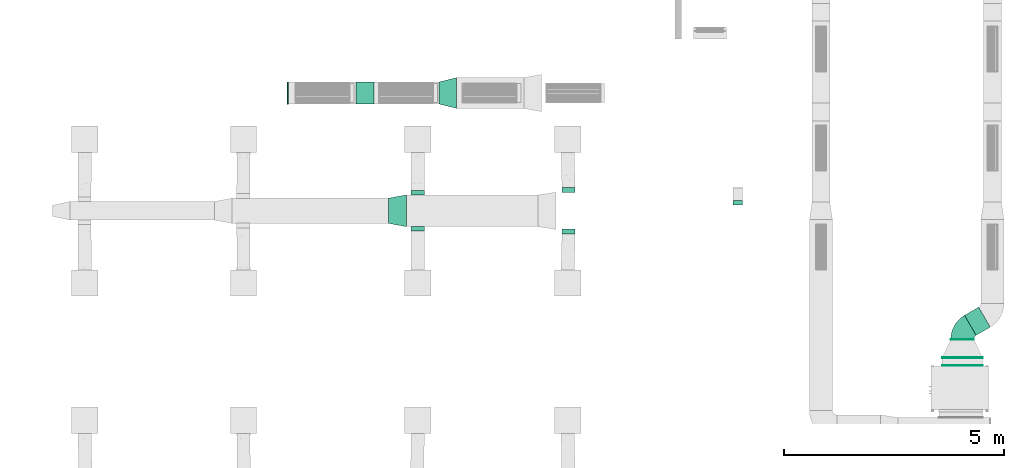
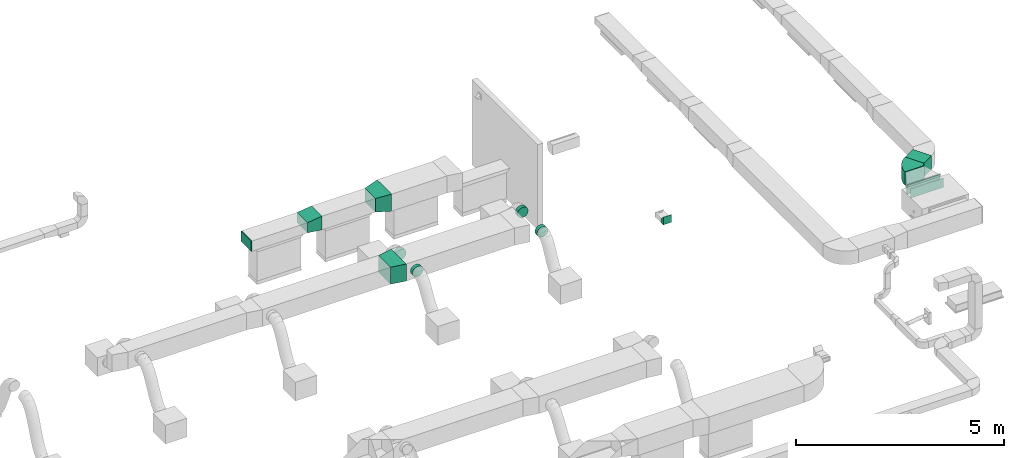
# One storey, part 29 of 60: 10 flow fittings, 4 flow segments.
"""IFC2X3 building model written with IfcOpenShell, lengths in millimetres."""

from ifc_helpers import new_model, entity, si_unit, converted_unit, derived_unit, direction, frame, frame_2d, origin, origin_2d_with_axis, place, context, subcontext, project, spatial, polyline, circle_curve, parameter, trimmed, segment, composite_curve, rectangle, outline, extrude, faceted_brep, source, transform, mapped, material, type_object, type_shapes, element, save


model = new_model("IFC2X3")

# Units and contexts
model_context = context("Model", 3, precision=0.01, world=origin(), true_north=direction((6.123233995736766e-17, 1.0)))
body_context = subcontext(model_context, "Body", "Model", "MODEL_VIEW")
ifc_project = project(units=[si_unit("LENGTHUNIT", "METRE", prefix="MILLI"), converted_unit("PLANEANGLEUNIT", "DEGREE", entity("IfcPlaneAngleMeasure", 0.017453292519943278), si_unit("PLANEANGLEUNIT", "RADIAN"), dimensions=[0, 0, 0, 0, 0, 0, 0]), si_unit("AREAUNIT", "SQUARE_METRE"), derived_unit("THERMALTRANSMITTANCEUNIT", [(si_unit("MASSUNIT", "GRAM", prefix="KILO"), 1), (si_unit("THERMODYNAMICTEMPERATUREUNIT", "KELVIN"), -1), (si_unit("TIMEUNIT", "SECOND"), -3)])], contexts=[model_context])

# Site, building, storey
site_placement = place(None, origin())
site = spatial("IfcSite", under=ifc_project, at=site_placement, Name="Default", CompositionType="ELEMENT")
building_placement = place(site_placement, origin())
building = spatial("IfcBuilding", under=site, at=building_placement, Name="Praça Pedro II, 1301 - Centro (Sul), Teresina - PI, 64001-100", CompositionType="ELEMENT")
storey_placement = place(building_placement, frame((0.0, 0.0, 6040.0)))
storey = spatial("IfcBuildingStorey", under=building, at=storey_placement, Name="2PAV", CompositionType="ELEMENT", Elevation=6040.0)

# Flow fittings
ifc_material = material(Name="<Unnamed>")
duct_fitting_type_1 = type_object("IfcDuctFittingType", Name="M_Encaixe de duto redondo:Padrão", PredefinedType="NOTDEFINED", material=ifc_material)
shared_shape_1 = source(origin(), body_context, "Body", "Brep", [
    faceted_brep([(101.6000000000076, 38.82285676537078, -144.88887394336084), (101.6000000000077, 75.0, -129.90381056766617), (101.60000000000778, 106.0660171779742, -106.06601717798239), (101.60000000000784, 129.90381056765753, -75.0), (101.60000000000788, 144.88887394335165, -38.8228567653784), (101.6000000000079, 150.0, 0.0), (101.60000000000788, 144.88887394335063, 38.822856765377), (101.60000000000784, 129.90381056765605, 75.0), (101.60000000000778, 106.0660171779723, 106.06601717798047), (101.6000000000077, 75.0, 129.90381056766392), (101.6000000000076, 38.82285676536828, 144.88887394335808), (101.6000000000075, 0.0, 150.0), (101.6000000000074, -38.82285676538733, 144.88887394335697), (101.60000000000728, -75.0, 129.90381056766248), (101.6000000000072, -106.06601717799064, 106.0660171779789), (101.60000000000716, -129.90381056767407, 75.0), (101.6000000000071, -144.88887394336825, 38.82285676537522), (101.60000000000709, -150.0, 0.0), (101.6000000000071, -144.8888739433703, -38.82285676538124), (101.60000000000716, -129.90381056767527, -75.0), (101.6000000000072, -106.06601717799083, -106.06601717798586), (101.60000000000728, -75.0, -129.90381056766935), (101.6000000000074, -38.82285676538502, -144.88887394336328), (101.6000000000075, 0.0, -150.0), (0.0, 38.82285676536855, 144.88887394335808), (-6.095999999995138, 38.82285676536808, 144.88887394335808), (-6.095999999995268, 0.0, 150.0), (0.0, 0.0, 150.0), (0.0, 75.0, 129.90381056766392), (-6.095999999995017, 75.0, 129.90381056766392), (0.0, 106.06601717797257, 106.06601717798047), (-6.0959999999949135, 106.06601717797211, 106.06601717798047), (0.0, 144.88887394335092, 38.82285676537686), (-6.095999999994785, 144.88887394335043, 38.822856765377), (-6.095999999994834, 129.90381056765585, 75.0), (0.0, 129.9038105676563, 75.0), (0.0, 150.0, 0.0), (-6.095999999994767, 150.0, 0.0), (0.0, 144.88887394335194, -38.8228567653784), (-6.095999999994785, 144.88887394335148, -38.8228567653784), (0.0, 129.90381056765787, -75.0), (-6.095999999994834, 129.90381056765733, -75.0), (0.0, 106.06601717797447, -106.06601717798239), (-6.0959999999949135, 106.066017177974, -106.06601717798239), (0.0, 38.82285676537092, -144.88887394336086), (-6.095999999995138, 38.822856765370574, -144.88887394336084), (-6.095999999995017, 75.0, -129.90381056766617), (0.0, 75.0, -129.90381056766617), (0.0, 0.0, -150.0), (-6.095999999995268, 0.0, -150.0), (0.0, -75.0, -129.90381056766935), (-6.095999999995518, -75.0, -129.90381056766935), (-6.095999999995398, -38.82285676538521, -144.88887394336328), (0.0, -38.82285676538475, -144.88887394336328), (0.0, -106.06601717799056, -106.06601717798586), (-6.095999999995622, -106.06601717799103, -106.06601717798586), (0.0, -144.88887394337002, -38.82285676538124), (-6.095999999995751, -144.8888739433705, -38.82285676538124), (-6.095999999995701, -129.9038105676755, -75.0), (0.0, -129.903810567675, -75.0), (0.0, -150.0, 0.0), (-6.09599999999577, -150.0, 0.0), (0.0, -144.88887394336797, 38.82285676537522), (-6.095999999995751, -144.88887394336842, 38.82285676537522), (0.0, -129.9038105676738, 75.0), (-6.095999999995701, -129.90381056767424, 75.0), (0.0, -106.06601717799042, 106.06601717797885), (-6.095999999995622, -106.06601717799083, 106.0660171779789), (0.0, -38.82285676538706, 144.88887394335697), (-6.095999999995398, -38.82285676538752, 144.88887394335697), (-6.095999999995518, -75.0, 129.90381056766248), (0.0, -75.0, 129.90381056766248)], [[[0, 1, 2, 3, 4, 5, 6, 7, 8, 9, 10, 11, 12, 13, 14, 15, 16, 17, 18, 19, 20, 21, 22, 23]], [[24, 25, 26, 27, 11, 10]], [[28, 29, 25, 24, 10, 9]], [[9, 8, 30, 31, 29, 28]], [[32, 33, 34, 35, 7, 6]], [[36, 37, 33, 32, 6, 5]], [[8, 7, 35, 34, 31, 30]], [[38, 39, 37, 36, 5, 4]], [[40, 41, 39, 38, 4, 3]], [[3, 2, 42, 43, 41, 40]], [[44, 45, 46, 47, 1, 0]], [[48, 49, 45, 44, 0, 23]], [[2, 1, 47, 46, 43, 42]], [[22, 21, 50, 51, 52, 53]], [[23, 22, 53, 52, 49, 48]], [[21, 20, 54, 55, 51, 50]], [[56, 57, 58, 59, 19, 18]], [[60, 61, 57, 56, 18, 17]], [[20, 19, 59, 58, 55, 54]], [[62, 63, 61, 60, 17, 16]], [[64, 65, 63, 62, 16, 15]], [[15, 14, 66, 67, 65, 64]], [[68, 69, 70, 71, 13, 12]], [[27, 26, 69, 68, 12, 11]], [[14, 13, 71, 70, 67, 66]], [[49, 52, 51, 55, 58, 57, 61, 63, 65, 67, 70, 69, 26, 25, 29, 31, 34, 33, 37, 39, 41, 43, 46, 45]]]),
])
type_shapes(duct_fitting_type_1, [shared_shape_1])
for number, where, z_axis, x_axis in (
    (1, (29937.068504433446, -57823.42127782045, 3480.0), (0.0, 0.0, 1.0), (0.0, 1.0, 0.0)),
    (2, (29937.068504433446, -58673.421277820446, 3480.0), (0.0, 0.0, -1.0), (0.0, -1.0, 0.0)),
    (3, (26512.077962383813, -58610.921277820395, 3480.0), (0.0, 0.0, -1.0), (0.0, -1.0, 0.0)),
    (4, (26512.077962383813, -57885.92127782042, 3480.0), (0.0, 0.0, 1.0), (0.0, 1.0, 0.0)),
):
    element("IfcFlowFitting", number, at=place(storey_placement, frame(where, z_axis=z_axis, x_axis=x_axis)), inside=storey, type_object=duct_fitting_type_1, material=ifc_material, Name="M_Encaixe de duto redondo:Padrão", ObjectType="M_Encaixe de duto redondo:Padrão", context=body_context, shape_type="MappedRepresentation", body=[
        mapped(shared_shape_1, transform((0.0, 0.0, 0.0), scale=1.0)),
    ])

# Flow segments
duct_segment_type = type_object("IfcDuctSegmentType", Name="Duto retangular:Raios cotovelos / torneiras", PredefinedType="NOTDEFINED")
flow_segment_1_placement = place(storey_placement, origin())
element("IfcFlowSegment", 5, at=flow_segment_1_placement, inside=storey, type_object=duct_segment_type, Name="Duto retangular:Raios cotovelos / torneiras", ObjectType="Duto retangular:Raios cotovelos / torneiras", context=body_context, shape_type="SweptSolid", body=[
    extrude(rectangle(XDim=371.08557619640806, YDim=525.0000000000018, at=frame_2d((-2.1742607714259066e-12, -3.751665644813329e-12), x_axis=(1.0, 0.0))), frame((39235.51025433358, -60758.80982275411, 3250.0), z_axis=(0.0, 0.0, 1.0), x_axis=(-0.8660254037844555, -0.49999999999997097, 0.0)), (0.0, 0.0, 1.0), 400.0),
])
flow_segment_2_placement = place(storey_placement, origin())
element("IfcFlowSegment", 6, at=flow_segment_2_placement, inside=storey, type_object=duct_segment_type, Name="Duto retangular:Raios cotovelos / torneiras", ObjectType="Duto retangular:Raios cotovelos / torneiras", context=body_context, shape_type="SweptSolid", body=[
    extrude(rectangle(XDim=17.801872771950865, YDim=525.0000000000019, at=origin_2d_with_axis()), frame((38893.57548635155, -61174.41636206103, 3250.0), z_axis=(0.0, 0.0, 1.0), x_axis=(0.0, -1.0, 0.0)), (0.0, 0.0, 1.0), 400.0),
])
flow_segment_3_placement = place(storey_placement, origin())
element("IfcFlowSegment", 7, at=flow_segment_3_placement, inside=storey, type_object=duct_segment_type, Name="Duto retangular:Raios cotovelos / torneiras", ObjectType="Duto retangular:Raios cotovelos / torneiras", context=body_context, shape_type="SweptSolid", body=[
    extrude(rectangle(XDim=15.000000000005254, YDim=916.9999999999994, at=frame_2d((4.331202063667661e-12, -4.320099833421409e-12), x_axis=(1.0, 0.0))), frame((38893.57548635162, -61766.39369241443, 3316.0), z_axis=(0.0, 0.0, 1.0), x_axis=(0.0, -1.0, 0.0)), (0.0, 0.0, 1.0), 267.9999999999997),
])
flow_segment_4_placement = place(storey_placement, origin())
element("IfcFlowSegment", 8, at=flow_segment_4_placement, inside=storey, type_object=duct_segment_type, Name="Duto retangular:Raios cotovelos / torneiras", ObjectType="Duto retangular:Raios cotovelos / torneiras", context=body_context, shape_type="SweptSolid", body=[
    extrude(rectangle(XDim=15.000000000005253, YDim=916.9999999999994, at=frame_2d((-4.331202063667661e-12, 0.0), x_axis=(1.0, 0.0))), frame((38893.57548635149, -61590.81729844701, 3316.0), z_axis=(0.0, 0.0, 1.0), x_axis=(0.0, -1.0, 0.0)), (0.0, 0.0, 1.0), 267.9999999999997),
])

# Flow fittings
duct_fitting_type_2 = type_object("IfcDuctFittingType", Name="M_Rectangular Transition - L:400 mm (L)", PredefinedType="NOTDEFINED", material=ifc_material)
shared_shape_2 = source(origin(), body_context, "Body", "SweptSolid", [
    extrude(outline(polyline([(-179.85036515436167, -173.64862842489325), (223.26252226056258, -173.64862842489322), (173.64862842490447, 223.26252226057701), (-217.06078553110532, 124.03473458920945), (-179.85036515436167, -173.64862842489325)])), frame((200.0, -250.0, 0.0), z_axis=(0.0, 1.0, 0.0), x_axis=(0.9922778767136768, 0.0, 0.12403473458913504)), (0.0, 0.0, 1.0), 500.00000000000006),
])
type_shapes(duct_fitting_type_2, [shared_shape_2])
flow_fitting_1_placement = place(storey_placement, frame((25114.081514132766, -55571.293902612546, 3500.0)))
element("IfcFlowFitting", 9, at=flow_fitting_1_placement, inside=storey, type_object=duct_fitting_type_2, material=ifc_material, Name="M_Rectangular Transition - L:400 mm (L)", ObjectType="M_Rectangular Transition - L:400 mm (L)", context=body_context, shape_type="MappedRepresentation", body=[
    mapped(shared_shape_2, transform((0.0, 0.0, 0.0), scale=1.0)),
])
duct_fitting_type_3 = type_object("IfcDuctFittingType", Name="M_Rectangular Transition - L:400 mm (L)", PredefinedType="NOTDEFINED", material=ifc_material)
shared_shape_3 = source(origin(), body_context, "Body", "Brep", [
    faceted_brep([(400.0, -350.0, 250.0), (400.0, -350.0, -250.0), (400.0, 350.0, -250.0), (400.0, 350.0, 250.0), (0.0, -250.0, 200.0), (0.0, 250.0, 200.0), (0.0, 250.0, -200.0), (0.0, -250.0, -200.0)], [[[0, 1, 2, 3]], [[4, 5, 6, 7]], [[4, 7, 1, 0]], [[7, 6, 2, 1]], [[6, 5, 3, 2]], [[5, 4, 0, 3]]]),
])
type_shapes(duct_fitting_type_3, [shared_shape_3])
flow_fitting_2_placement = place(storey_placement, frame((26995.612034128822, -55571.2939026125, 3500.0)))
element("IfcFlowFitting", 10, at=flow_fitting_2_placement, inside=storey, type_object=duct_fitting_type_3, material=ifc_material, Name="M_Rectangular Transition - L:400 mm (L)", ObjectType="M_Rectangular Transition - L:400 mm (L)", context=body_context, shape_type="MappedRepresentation", body=[
    mapped(shared_shape_3, transform((0.0, 0.0, 0.0), scale=1.0)),
])
duct_fitting_type_4 = type_object("IfcDuctFittingType", Name="M_Tampa retangular:Padrão", PredefinedType="NOTDEFINED", material=ifc_material)
shared_shape_4 = source(origin(), body_context, "Body", "SweptSolid", [
    extrude(rectangle(XDim=24.999999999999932, YDim=500.00000000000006, at=frame_2d((8.881784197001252e-16, 0.0), x_axis=(1.0, 0.0))), frame((12.500000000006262, 0.0, -150.0)), (0.0, 0.0, 1.0), 300.0),
])
type_shapes(duct_fitting_type_4, [shared_shape_4])
flow_fitting_3_placement = place(storey_placement, frame((23573.96138909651, -55571.293902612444, 3500.0), z_axis=(0.0, 0.0, 1.0), x_axis=(-1.0, 0.0, 0.0)))
element("IfcFlowFitting", 11, at=flow_fitting_3_placement, inside=storey, type_object=duct_fitting_type_4, material=ifc_material, Name="M_Tampa retangular:Padrão", ObjectType="M_Tampa retangular:Padrão", context=body_context, shape_type="MappedRepresentation", body=[
    mapped(shared_shape_4, transform((0.0, 0.0, 0.0), scale=1.0)),
])
duct_fitting_type_5 = type_object("IfcDuctFittingType", Name="M_Rectangular Transition - L:400 mm (L)", PredefinedType="NOTDEFINED", material=ifc_material)
shared_shape_5 = source(origin(), body_context, "Body", "SweptSolid", [
    extrude(outline(polyline([(-263.3790313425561, -319.4334607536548), (143.59148355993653, -319.43346075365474), (249.5573912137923, 245.71804673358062), (-129.7698434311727, 393.1488747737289), (-263.3790313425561, -319.4334607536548)])), frame((200.0, 0.0, -250.0), z_axis=(0.0, 0.0, 1.0), x_axis=(0.9828721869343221, 0.18428853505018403, 0.0)), (0.0, 0.0, 1.0), 500.00000000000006),
])
type_shapes(duct_fitting_type_5, [shared_shape_5])
flow_fitting_4_placement = place(storey_placement, frame((26251.32107154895, -58248.42127782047, 3480.0), z_axis=(0.0, 0.0, 1.0), x_axis=(-1.0, 0.0, 0.0)))
element("IfcFlowFitting", 12, at=flow_fitting_4_placement, inside=storey, type_object=duct_fitting_type_5, material=ifc_material, Name="M_Rectangular Transition - L:400 mm (L)", ObjectType="M_Rectangular Transition - L:400 mm (L)", context=body_context, shape_type="MappedRepresentation", body=[
    mapped(shared_shape_5, transform((0.0, 0.0, 0.0), scale=1.0)),
])
duct_fitting_type_6 = type_object("IfcDuctFittingType", Name="BTS vanes:1 Splitter Vanes", PredefinedType="NOTDEFINED", material=ifc_material)
shared_shape_6 = source(origin(), body_context, "Body", "SweptSolid", [
    extrude(outline(composite_curve([segment(polyline([(-353.12499999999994, -156.9671044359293), (171.87500000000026, -156.96710443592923)]), True, "CONTINUOUS"), segment(trimmed(circle_curve(frame_2d((271.8750000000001, -156.96710443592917), x_axis=(-0.5, 0.8660254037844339)), 99.99999999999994), [parameter(0.0)], [parameter(59.99999999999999)], True, "PARAMETER"), False, "CONTINUOUS"), segment(polyline([(221.87500000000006, -70.36456405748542), (-40.625000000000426, 384.29877292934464)]), True, "CONTINUOUS"), segment(trimmed(circle_curve(frame_2d((271.8750000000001, -156.96710443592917), x_axis=(-0.5, 0.8660254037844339)), 625.0), [parameter(0.0)], [parameter(59.99999999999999)], True, "PARAMETER"), True, "CONTINUOUS")], self_intersect=False)), frame((-52.32236814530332, 90.62499999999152, -200.0), z_axis=(0.0, 0.0, 1.0), x_axis=(-0.8660254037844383, 0.5000000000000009, 0.0)), (0.0, 0.0, 1.0), 400.0),
    extrude(outline(composite_curve([segment(polyline([(-48.026315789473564, -51.27781996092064), (-11.184210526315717, -51.27781996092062)]), True, "CONTINUOUS"), segment(trimmed(circle_curve(frame_2d((88.8157894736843, -51.27781996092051), x_axis=(-0.5, 0.8660254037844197)), 100.0), [parameter(0.0)], [parameter(59.99999999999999)], True, "PARAMETER"), False, "CONTINUOUS"), segment(polyline([(38.815789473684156, 35.324720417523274), (20.394736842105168, 67.23091950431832)]), True, "CONTINUOUS"), segment(trimmed(circle_curve(frame_2d((88.8157894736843, -51.27781996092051), x_axis=(-0.5, 0.8660254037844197)), 136.84210526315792), [parameter(0.0)], [parameter(59.99999999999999)], True, "PARAMETER"), True, "CONTINUOUS")], self_intersect=False)), frame((-158.0116526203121, 273.6842105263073, -200.0), z_axis=(0.0, 0.0, 1.0), x_axis=(-0.8660254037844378, 0.5000000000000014, 0.0)), (0.0, 0.0, 1.0), 400.0),
])
type_shapes(duct_fitting_type_6, [shared_shape_6])
flow_fitting_5_placement = place(storey_placement, frame((38893.57548635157, -60956.225953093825, 3450.0), z_axis=(0.0, 0.0, 1.0), x_axis=(-0.8660254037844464, -0.49999999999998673, 0.0)))
element("IfcFlowFitting", 13, at=flow_fitting_5_placement, inside=storey, type_object=duct_fitting_type_6, material=ifc_material, Name="BTS vanes:1 Splitter Vanes", ObjectType="BTS vanes:1 Splitter Vanes", context=body_context, shape_type="MappedRepresentation", body=[
    mapped(shared_shape_6, transform((0.0, 0.0, 0.0), scale=1.0)),
])
duct_fitting_type_7 = type_object("IfcDuctFittingType", Name="M_Rectangular Tap - Beveled:Standard", PredefinedType="NOTDEFINED", material=ifc_material)
shared_shape_7 = source(origin(), body_context, "Body", "SweptSolid", [
    extrude(outline(polyline([(-115.0, -62.438399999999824), (10.0, -62.438399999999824), (110.0, 37.56159999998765), (110.0, 43.6576000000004), (-115.0, 43.65759999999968), (-115.0, -62.438399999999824)])), frame((37.56160000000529, 52.50000000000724, -112.49999999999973), z_axis=(0.0, 0.0, 1.0), x_axis=(0.0, 1.0, 0.0)), (0.0, 0.0, 1.0), 224.99999999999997),
])
type_shapes(duct_fitting_type_7, [shared_shape_7])
flow_fitting_6_placement = place(storey_placement, frame((33786.88553093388, -58110.8422434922, 2041.0000001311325), z_axis=(1.0, 0.0, 0.0), x_axis=(0.0, 1.0, 0.0)))
element("IfcFlowFitting", 14, at=flow_fitting_6_placement, inside=storey, type_object=duct_fitting_type_7, material=ifc_material, Name="M_Rectangular Tap - Beveled:Standard", ObjectType="M_Rectangular Tap - Beveled:Standard", context=body_context, shape_type="MappedRepresentation", body=[
    mapped(shared_shape_7, transform((0.0, 0.0, 0.0), scale=1.0)),
])

save(model, "model.ifc")
